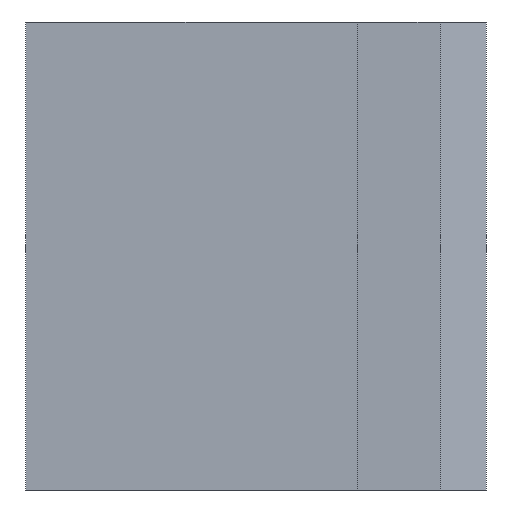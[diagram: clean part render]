
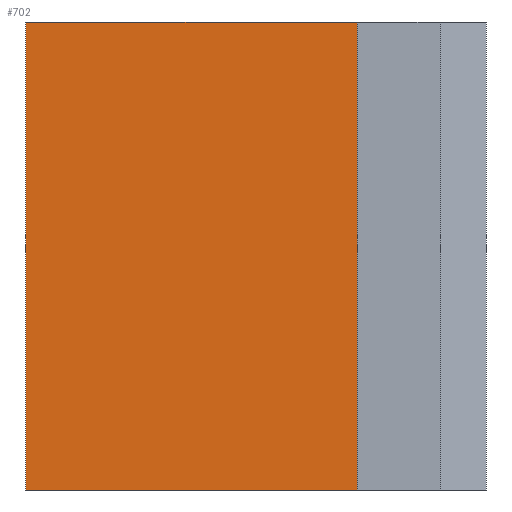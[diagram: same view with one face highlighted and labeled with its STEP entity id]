
A CAD part, left-side view. The second image highlights one B-rep face of the part: STEP entity #702.
In plain terms, the highlighted planar face has unit normal (-1, 0, 0).
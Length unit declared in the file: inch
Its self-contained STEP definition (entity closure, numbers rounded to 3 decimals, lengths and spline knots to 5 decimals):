
#646=CARTESIAN_POINT('',(-0.3937,0.,1.0));
#647=VERTEX_POINT('',#646);
#654=CARTESIAN_POINT('',(-0.3937,0.,0.0));
#655=VERTEX_POINT('',#654);
#656=CARTESIAN_POINT('',(-0.3937,0.,0.0));
#657=DIRECTION('',(0.0,0.0,1.0));
#658=VECTOR('',#657,1.0);
#659=LINE('',#656,#658);
#660=EDGE_CURVE('',#655,#647,#659,.T.);
#672=CARTESIAN_POINT('',(-0.3937,0.,0.0));
#673=DIRECTION('',(-1.0,0.0,0.0));
#674=DIRECTION('',(0.0,0.0,1.0));
#675=AXIS2_PLACEMENT_3D('',#672,#673,#674);
#676=PLANE('',#675);
#677=CARTESIAN_POINT('',(-0.3937,0.70866,1.0));
#678=VERTEX_POINT('',#677);
#679=CARTESIAN_POINT('',(-0.3937,0.0,1.0));
#680=DIRECTION('',(0.0,1.0,0.0));
#681=VECTOR('',#680,0.70866);
#682=LINE('',#679,#681);
#683=EDGE_CURVE('',#647,#678,#682,.T.);
#684=ORIENTED_EDGE('',*,*,#683,.T.);
#685=CARTESIAN_POINT('',(-0.3937,0.70866,0.0));
#686=VERTEX_POINT('',#685);
#687=CARTESIAN_POINT('',(-0.3937,0.70866,0.0));
#688=DIRECTION('',(0.0,0.0,1.0));
#689=VECTOR('',#688,1.0);
#690=LINE('',#687,#689);
#691=EDGE_CURVE('',#686,#678,#690,.T.);
#692=ORIENTED_EDGE('',*,*,#691,.F.);
#693=CARTESIAN_POINT('',(-0.3937,0.70866,0.0));
#694=DIRECTION('',(0.0,-1.0,0.0));
#695=VECTOR('',#694,0.70866);
#696=LINE('',#693,#695);
#697=EDGE_CURVE('',#686,#655,#696,.T.);
#698=ORIENTED_EDGE('',*,*,#697,.T.);
#699=ORIENTED_EDGE('',*,*,#660,.T.);
#700=EDGE_LOOP('',(#684,#692,#698,#699));
#701=FACE_OUTER_BOUND('',#700,.T.);
#702=ADVANCED_FACE('',(#701),#676,.T.);
